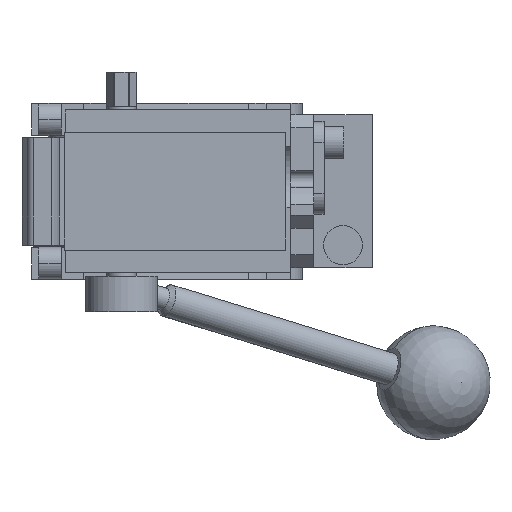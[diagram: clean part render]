
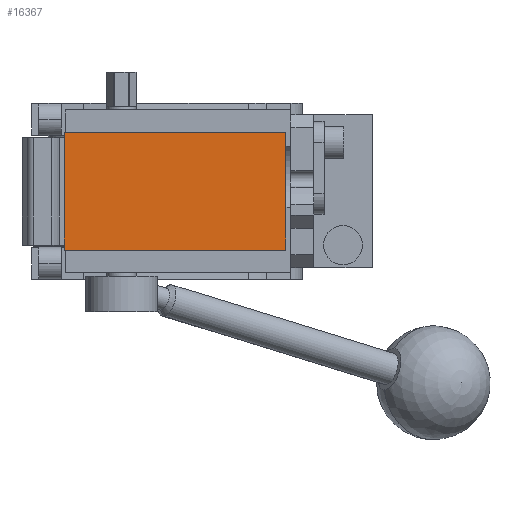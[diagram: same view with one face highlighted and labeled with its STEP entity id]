
A CAD part, front view. The second image highlights one B-rep face of the part: STEP entity #16367.
In plain terms, the highlighted planar face has unit normal (0, -1, 0).
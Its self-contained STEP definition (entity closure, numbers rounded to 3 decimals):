
#970 = ORIENTED_EDGE ( 'NONE', *, *, #8916, .T. ) ;
#1344 = EDGE_CURVE ( 'NONE', #9108, #13791, #16320, .T. ) ;
#1459 = VERTEX_POINT ( 'NONE', #5543 ) ;
#1737 = ORIENTED_EDGE ( 'NONE', *, *, #10709, .T. ) ;
#1996 = FACE_OUTER_BOUND ( 'NONE', #4660, .T. ) ;
#2299 = DIRECTION ( 'NONE',  ( 0., 0., 1. ) ) ;
#2440 = ORIENTED_EDGE ( 'NONE', *, *, #1344, .T. ) ;
#4527 = DIRECTION ( 'NONE',  ( -1., 0., 0. ) ) ;
#4573 = DIRECTION ( 'NONE',  ( 0., 0., -1. ) ) ;
#4660 = EDGE_LOOP ( 'NONE', ( #9471, #1737, #970, #2440 ) ) ;
#4810 = VECTOR ( 'NONE', #4527, 1000. ) ;
#5008 = DIRECTION ( 'NONE',  ( 1., 0., 0. ) ) ;
#5543 = CARTESIAN_POINT ( 'NONE',  ( -6., -233., -18. ) ) ;
#7116 = EDGE_CURVE ( 'NONE', #13791, #1459, #13802, .T. ) ;
#7217 = CARTESIAN_POINT ( 'NONE',  ( 62., -233., 18. ) ) ;
#8009 = VECTOR ( 'NONE', #15181, 1000. ) ;
#8085 = VERTEX_POINT ( 'NONE', #10210 ) ;
#8571 = CARTESIAN_POINT ( 'NONE',  ( -6., -233., 18. ) ) ;
#8916 = EDGE_CURVE ( 'NONE', #8085, #9108, #11585, .T. ) ;
#9108 = VERTEX_POINT ( 'NONE', #7217 ) ;
#9135 = CARTESIAN_POINT ( 'NONE',  ( -6., -233., -18. ) ) ;
#9471 = ORIENTED_EDGE ( 'NONE', *, *, #7116, .T. ) ;
#10178 = LINE ( 'NONE', #9135, #10484 ) ;
#10210 = CARTESIAN_POINT ( 'NONE',  ( 62., -233., -18. ) ) ;
#10484 = VECTOR ( 'NONE', #5008, 1000. ) ;
#10496 = CARTESIAN_POINT ( 'NONE',  ( -6., -233., 18. ) ) ;
#10709 = EDGE_CURVE ( 'NONE', #1459, #8085, #10178, .T. ) ;
#11505 = CARTESIAN_POINT ( 'NONE',  ( 62., -233., 18. ) ) ;
#11585 = LINE ( 'NONE', #11505, #14937 ) ;
#12310 = AXIS2_PLACEMENT_3D ( 'NONE', #14718, #13763, #4573 ) ;
#13763 = DIRECTION ( 'NONE',  ( 0., -1., 0. ) ) ;
#13791 = VERTEX_POINT ( 'NONE', #10496 ) ;
#13802 = LINE ( 'NONE', #16579, #8009 ) ;
#14718 = CARTESIAN_POINT ( 'NONE',  ( 0., -233., 0. ) ) ;
#14937 = VECTOR ( 'NONE', #2299, 1000. ) ;
#15181 = DIRECTION ( 'NONE',  ( 0., 0., -1. ) ) ;
#16320 = LINE ( 'NONE', #8571, #4810 ) ;
#16364 = PLANE ( 'NONE',  #12310 ) ;
#16367 = ADVANCED_FACE ( 'NONE', ( #1996 ), #16364, .T. ) ;
#16579 = CARTESIAN_POINT ( 'NONE',  ( -6., -233., 18. ) ) ;
